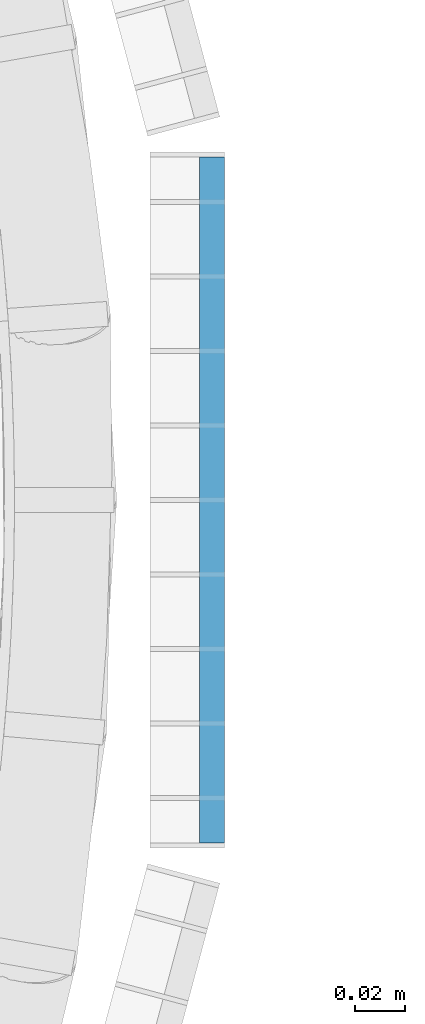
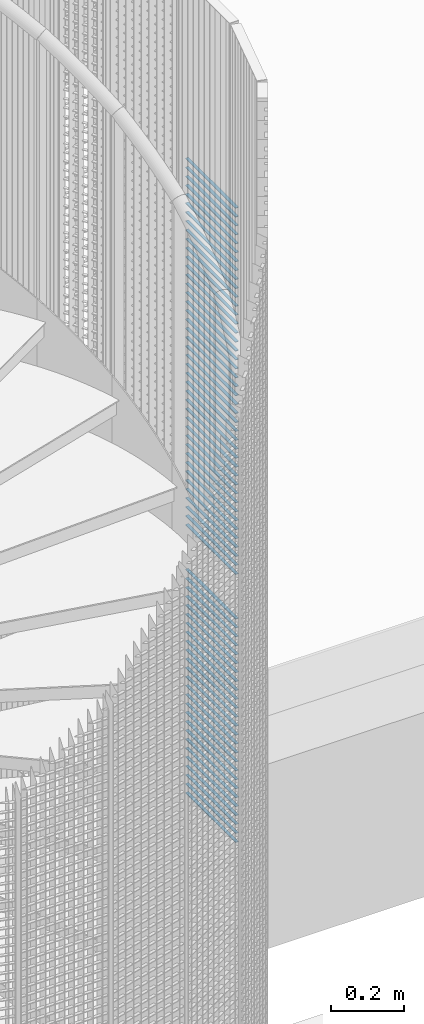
# One storey, part 266 of 1148: 68 beams, 1 element without a shape of its own.
"""IFC2X3 building model written with IfcOpenShell, lengths in millimetres."""

from ifc_helpers import new_model, si_unit, frame, origin_with_axes, origin_2d_with_axis, place, context, subcontext, project, spatial, rectangle, extrude, material, type_object, element, aggregate, save


model = new_model("IFC2X3")

# Units and contexts
model_context = context("Model", 3, precision=1e-05, world=origin_with_axes())
body_context = subcontext(model_context, "Body", "Model", "MODEL_VIEW")
ifc_project = project(units=[si_unit("LENGTHUNIT", "METRE", prefix="MILLI"), si_unit("AREAUNIT", "SQUARE_METRE"), si_unit("VOLUMEUNIT", "CUBIC_METRE"), si_unit("MASSUNIT", "GRAM", prefix="KILO"), si_unit("TIMEUNIT", "SECOND"), si_unit("PLANEANGLEUNIT", "RADIAN"), si_unit("SOLIDANGLEUNIT", "STERADIAN"), si_unit("THERMODYNAMICTEMPERATUREUNIT", "DEGREE_CELSIUS"), si_unit("LUMINOUSINTENSITYUNIT", "LUMEN")], contexts=[model_context])

# Site, building, storey
site_placement = place(None, origin_with_axes())
site = spatial("IfcSite", under=ifc_project, at=site_placement, Name="Undefined", CompositionType="ELEMENT")
building_placement = place(site_placement, origin_with_axes())
building = spatial("IfcBuilding", under=site, at=building_placement, Name="Undefined", CompositionType="ELEMENT")
storey_placement = place(building_placement, origin_with_axes())
storey = spatial("IfcBuildingStorey", under=building, at=storey_placement, Name="Undefined", CompositionType="ELEMENT", Elevation=0.0)

# Assembly, beams
assembly_placement = place(storey_placement, origin_with_axes())
assembly = element("IfcElementAssembly", 1, at=assembly_placement, inside=storey, Name="BORDURE", AssemblyPlace="NOTDEFINED", PredefinedType="NOTDEFINED")
ifc_material = material(Name="STEEL/S235JR")
beam_type = type_object("IfcBeamType", Name="PL2*10", PredefinedType="NOTDEFINED")
beam_1_placement = place(assembly_placement, frame((1113.47999999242, -137.996003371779, 17370.0), z_axis=(1.0, 0.0, 0.0), x_axis=(0.0, 1.0, 0.0)))
beam_1 = element("IfcBeam", 2, at=beam_1_placement, type_object=beam_type, material=ifc_material, Name="ENTRETOISE", context=body_context, shape_type="SweptSolid", body=[
    extrude(rectangle(XDim=2.0, YDim=10.0, at=origin_2d_with_axis()), frame((275.999999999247, 9.09494701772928e-13, 1.53210777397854e-14), z_axis=(-1.0, 0.0, 0.0), x_axis=(0.0, -1.0, 0.0)), (0.0, 0.0, 1.0), 276.0),
])
beam_2_placement = place(assembly_placement, frame((1113.47999999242, -137.996003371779, 17340.0), z_axis=(1.0, 0.0, 0.0), x_axis=(0.0, 1.0, 0.0)))
beam_2 = element("IfcBeam", 3, at=beam_2_placement, type_object=beam_type, material=ifc_material, Name="ENTRETOISE", context=body_context, shape_type="SweptSolid", body=[
    extrude(rectangle(XDim=2.0, YDim=10.0, at=origin_2d_with_axis()), frame((275.999999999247, 9.09494701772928e-13, 1.53210777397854e-14), z_axis=(-1.0, 0.0, 0.0), x_axis=(0.0, -1.0, 0.0)), (0.0, 0.0, 1.0), 276.0),
])
beam_3_placement = place(assembly_placement, frame((1113.47999999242, -137.996003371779, 17310.0), z_axis=(1.0, 0.0, 0.0), x_axis=(0.0, 1.0, 0.0)))
beam_3 = element("IfcBeam", 4, at=beam_3_placement, type_object=beam_type, material=ifc_material, Name="ENTRETOISE", context=body_context, shape_type="SweptSolid", body=[
    extrude(rectangle(XDim=2.0, YDim=10.0, at=origin_2d_with_axis()), frame((275.999999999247, 9.09494701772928e-13, 1.53210777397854e-14), z_axis=(-1.0, 0.0, 0.0), x_axis=(0.0, -1.0, 0.0)), (0.0, 0.0, 1.0), 276.0),
])
beam_4_placement = place(assembly_placement, frame((1113.47999999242, -137.996003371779, 17280.0), z_axis=(1.0, 0.0, 0.0), x_axis=(0.0, 1.0, 0.0)))
beam_4 = element("IfcBeam", 5, at=beam_4_placement, type_object=beam_type, material=ifc_material, Name="ENTRETOISE", context=body_context, shape_type="SweptSolid", body=[
    extrude(rectangle(XDim=2.0, YDim=10.0, at=origin_2d_with_axis()), frame((275.999999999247, 9.09494701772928e-13, 1.53210777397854e-14), z_axis=(-1.0, 0.0, 0.0), x_axis=(0.0, -1.0, 0.0)), (0.0, 0.0, 1.0), 276.0),
])
beam_5_placement = place(assembly_placement, frame((1113.47999999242, -137.996003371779, 17250.0), z_axis=(1.0, 0.0, 0.0), x_axis=(0.0, 1.0, 0.0)))
beam_5 = element("IfcBeam", 6, at=beam_5_placement, type_object=beam_type, material=ifc_material, Name="ENTRETOISE", context=body_context, shape_type="SweptSolid", body=[
    extrude(rectangle(XDim=2.0, YDim=10.0, at=origin_2d_with_axis()), frame((275.999999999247, 9.09494701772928e-13, 1.53210777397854e-14), z_axis=(-1.0, 0.0, 0.0), x_axis=(0.0, -1.0, 0.0)), (0.0, 0.0, 1.0), 276.0),
])
beam_6_placement = place(assembly_placement, frame((1113.47999999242, -137.996003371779, 17220.0), z_axis=(1.0, 0.0, 0.0), x_axis=(0.0, 1.0, 0.0)))
beam_6 = element("IfcBeam", 7, at=beam_6_placement, type_object=beam_type, material=ifc_material, Name="ENTRETOISE", context=body_context, shape_type="SweptSolid", body=[
    extrude(rectangle(XDim=2.0, YDim=10.0, at=origin_2d_with_axis()), frame((275.999999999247, 9.09494701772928e-13, 1.53210777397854e-14), z_axis=(-1.0, 0.0, 0.0), x_axis=(0.0, -1.0, 0.0)), (0.0, 0.0, 1.0), 276.0),
])
beam_7_placement = place(assembly_placement, frame((1113.47999999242, -137.996003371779, 17190.0), z_axis=(1.0, 0.0, 0.0), x_axis=(0.0, 1.0, 0.0)))
beam_7 = element("IfcBeam", 8, at=beam_7_placement, type_object=beam_type, material=ifc_material, Name="ENTRETOISE", context=body_context, shape_type="SweptSolid", body=[
    extrude(rectangle(XDim=2.0, YDim=10.0, at=origin_2d_with_axis()), frame((275.999999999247, 9.09494701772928e-13, 1.53210777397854e-14), z_axis=(-1.0, 0.0, 0.0), x_axis=(0.0, -1.0, 0.0)), (0.0, 0.0, 1.0), 276.0),
])
beam_8_placement = place(assembly_placement, frame((1113.47999999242, -137.996003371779, 17160.0), z_axis=(1.0, 0.0, 0.0), x_axis=(0.0, 1.0, 0.0)))
beam_8 = element("IfcBeam", 9, at=beam_8_placement, type_object=beam_type, material=ifc_material, Name="ENTRETOISE", context=body_context, shape_type="SweptSolid", body=[
    extrude(rectangle(XDim=2.0, YDim=10.0, at=origin_2d_with_axis()), frame((275.999999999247, 9.09494701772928e-13, 1.53210777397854e-14), z_axis=(-1.0, 0.0, 0.0), x_axis=(0.0, -1.0, 0.0)), (0.0, 0.0, 1.0), 276.0),
])
beam_9_placement = place(assembly_placement, frame((1113.47999999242, -137.996003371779, 17130.0), z_axis=(1.0, 0.0, 0.0), x_axis=(0.0, 1.0, 0.0)))
beam_9 = element("IfcBeam", 10, at=beam_9_placement, type_object=beam_type, material=ifc_material, Name="ENTRETOISE", context=body_context, shape_type="SweptSolid", body=[
    extrude(rectangle(XDim=2.0, YDim=10.0, at=origin_2d_with_axis()), frame((275.999999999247, 9.09494701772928e-13, 1.53210777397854e-14), z_axis=(-1.0, 0.0, 0.0), x_axis=(0.0, -1.0, 0.0)), (0.0, 0.0, 1.0), 276.0),
])
beam_10_placement = place(assembly_placement, frame((1113.47999999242, -137.996003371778, 17100.0), z_axis=(1.0, 0.0, 0.0), x_axis=(0.0, 1.0, 0.0)))
beam_10 = element("IfcBeam", 11, at=beam_10_placement, type_object=beam_type, material=ifc_material, Name="ENTRETOISE", context=body_context, shape_type="SweptSolid", body=[
    extrude(rectangle(XDim=2.0, YDim=10.0, at=origin_2d_with_axis()), frame((275.999999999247, 9.09494701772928e-13, 1.53210777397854e-14), z_axis=(-1.0, 0.0, 0.0), x_axis=(0.0, -1.0, 0.0)), (0.0, 0.0, 1.0), 276.0),
])
beam_11_placement = place(assembly_placement, frame((1113.47999999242, -137.996003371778, 17070.0), z_axis=(1.0, 0.0, 0.0), x_axis=(0.0, 1.0, 0.0)))
beam_11 = element("IfcBeam", 12, at=beam_11_placement, type_object=beam_type, material=ifc_material, Name="ENTRETOISE", context=body_context, shape_type="SweptSolid", body=[
    extrude(rectangle(XDim=2.0, YDim=10.0, at=origin_2d_with_axis()), frame((275.999999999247, 9.09494701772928e-13, 1.53210777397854e-14), z_axis=(-1.0, 0.0, 0.0), x_axis=(0.0, -1.0, 0.0)), (0.0, 0.0, 1.0), 276.0),
])
beam_12_placement = place(assembly_placement, frame((1113.47999999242, -137.996003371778, 17040.0), z_axis=(1.0, 0.0, 0.0), x_axis=(0.0, 1.0, 0.0)))
beam_12 = element("IfcBeam", 13, at=beam_12_placement, type_object=beam_type, material=ifc_material, Name="ENTRETOISE", context=body_context, shape_type="SweptSolid", body=[
    extrude(rectangle(XDim=2.0, YDim=10.0, at=origin_2d_with_axis()), frame((275.999999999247, 9.09494701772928e-13, 1.53210777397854e-14), z_axis=(-1.0, 0.0, 0.0), x_axis=(0.0, -1.0, 0.0)), (0.0, 0.0, 1.0), 276.0),
])
beam_13_placement = place(assembly_placement, frame((1113.47999999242, -137.996003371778, 17010.0), z_axis=(1.0, 0.0, 0.0), x_axis=(0.0, 1.0, 0.0)))
beam_13 = element("IfcBeam", 14, at=beam_13_placement, type_object=beam_type, material=ifc_material, Name="ENTRETOISE", context=body_context, shape_type="SweptSolid", body=[
    extrude(rectangle(XDim=2.0, YDim=10.0, at=origin_2d_with_axis()), frame((275.999999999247, 9.09494701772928e-13, 1.53210777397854e-14), z_axis=(-1.0, 0.0, 0.0), x_axis=(0.0, -1.0, 0.0)), (0.0, 0.0, 1.0), 276.0),
])
beam_14_placement = place(assembly_placement, frame((1113.47999999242, -137.996003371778, 16980.0), z_axis=(1.0, 0.0, 0.0), x_axis=(0.0, 1.0, 0.0)))
beam_14 = element("IfcBeam", 15, at=beam_14_placement, type_object=beam_type, material=ifc_material, Name="ENTRETOISE", context=body_context, shape_type="SweptSolid", body=[
    extrude(rectangle(XDim=2.0, YDim=10.0, at=origin_2d_with_axis()), frame((275.999999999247, 9.09494701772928e-13, 1.53210777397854e-14), z_axis=(-1.0, 0.0, 0.0), x_axis=(0.0, -1.0, 0.0)), (0.0, 0.0, 1.0), 276.0),
])
beam_15_placement = place(assembly_placement, frame((1113.47999999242, -137.996003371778, 16950.0), z_axis=(1.0, 0.0, 0.0), x_axis=(0.0, 1.0, 0.0)))
beam_15 = element("IfcBeam", 16, at=beam_15_placement, type_object=beam_type, material=ifc_material, Name="ENTRETOISE", context=body_context, shape_type="SweptSolid", body=[
    extrude(rectangle(XDim=2.0, YDim=10.0, at=origin_2d_with_axis()), frame((275.999999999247, 9.09494701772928e-13, 1.53210777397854e-14), z_axis=(-1.0, 0.0, 0.0), x_axis=(0.0, -1.0, 0.0)), (0.0, 0.0, 1.0), 276.0),
])
beam_16_placement = place(assembly_placement, frame((1113.47999999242, -137.996003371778, 16920.0), z_axis=(1.0, 0.0, 0.0), x_axis=(0.0, 1.0, 0.0)))
beam_16 = element("IfcBeam", 17, at=beam_16_placement, type_object=beam_type, material=ifc_material, Name="ENTRETOISE", context=body_context, shape_type="SweptSolid", body=[
    extrude(rectangle(XDim=2.0, YDim=10.0, at=origin_2d_with_axis()), frame((275.999999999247, 9.09494701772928e-13, 1.53210777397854e-14), z_axis=(-1.0, 0.0, 0.0), x_axis=(0.0, -1.0, 0.0)), (0.0, 0.0, 1.0), 276.0),
])
beam_17_placement = place(assembly_placement, frame((1113.47999999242, -137.996003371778, 16890.0), z_axis=(1.0, 0.0, 0.0), x_axis=(0.0, 1.0, 0.0)))
beam_17 = element("IfcBeam", 18, at=beam_17_placement, type_object=beam_type, material=ifc_material, Name="ENTRETOISE", context=body_context, shape_type="SweptSolid", body=[
    extrude(rectangle(XDim=2.0, YDim=10.0, at=origin_2d_with_axis()), frame((275.999999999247, 9.09494701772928e-13, 1.53210777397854e-14), z_axis=(-1.0, 0.0, 0.0), x_axis=(0.0, -1.0, 0.0)), (0.0, 0.0, 1.0), 276.0),
])
beam_18_placement = place(assembly_placement, frame((1113.47999999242, -137.996003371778, 16860.0), z_axis=(1.0, 0.0, 0.0), x_axis=(0.0, 1.0, 0.0)))
beam_18 = element("IfcBeam", 19, at=beam_18_placement, type_object=beam_type, material=ifc_material, Name="ENTRETOISE", context=body_context, shape_type="SweptSolid", body=[
    extrude(rectangle(XDim=2.0, YDim=10.0, at=origin_2d_with_axis()), frame((275.999999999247, 9.09494701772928e-13, 1.53210777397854e-14), z_axis=(-1.0, 0.0, 0.0), x_axis=(0.0, -1.0, 0.0)), (0.0, 0.0, 1.0), 276.0),
])
beam_19_placement = place(assembly_placement, frame((1113.47999999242, -137.996003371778, 16830.0), z_axis=(1.0, 0.0, 0.0), x_axis=(0.0, 1.0, 0.0)))
beam_19 = element("IfcBeam", 20, at=beam_19_placement, type_object=beam_type, material=ifc_material, Name="ENTRETOISE", context=body_context, shape_type="SweptSolid", body=[
    extrude(rectangle(XDim=2.0, YDim=10.0, at=origin_2d_with_axis()), frame((275.999999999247, 9.09494701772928e-13, 1.53210777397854e-14), z_axis=(-1.0, 0.0, 0.0), x_axis=(0.0, -1.0, 0.0)), (0.0, 0.0, 1.0), 276.0),
])
beam_20_placement = place(assembly_placement, frame((1113.47999999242, -137.996003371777, 16800.0), z_axis=(1.0, 0.0, 0.0), x_axis=(0.0, 1.0, 0.0)))
beam_20 = element("IfcBeam", 21, at=beam_20_placement, type_object=beam_type, material=ifc_material, Name="ENTRETOISE", context=body_context, shape_type="SweptSolid", body=[
    extrude(rectangle(XDim=2.0, YDim=10.0, at=origin_2d_with_axis()), frame((275.999999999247, 9.09494701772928e-13, 1.53210777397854e-14), z_axis=(-1.0, 0.0, 0.0), x_axis=(0.0, -1.0, 0.0)), (0.0, 0.0, 1.0), 276.0),
])
beam_21_placement = place(assembly_placement, frame((1113.47999999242, -137.996003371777, 16770.0), z_axis=(1.0, 0.0, 0.0), x_axis=(0.0, 1.0, 0.0)))
beam_21 = element("IfcBeam", 22, at=beam_21_placement, type_object=beam_type, material=ifc_material, Name="ENTRETOISE", context=body_context, shape_type="SweptSolid", body=[
    extrude(rectangle(XDim=2.0, YDim=10.0, at=origin_2d_with_axis()), frame((275.999999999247, 9.09494701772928e-13, 1.53210777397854e-14), z_axis=(-1.0, 0.0, 0.0), x_axis=(0.0, -1.0, 0.0)), (0.0, 0.0, 1.0), 276.0),
])
beam_22_placement = place(assembly_placement, frame((1113.47999999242, -137.996003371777, 16740.0), z_axis=(1.0, 0.0, 0.0), x_axis=(0.0, 1.0, 0.0)))
beam_22 = element("IfcBeam", 23, at=beam_22_placement, type_object=beam_type, material=ifc_material, Name="ENTRETOISE", context=body_context, shape_type="SweptSolid", body=[
    extrude(rectangle(XDim=2.0, YDim=10.0, at=origin_2d_with_axis()), frame((275.999999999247, 9.09494701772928e-13, 1.53210777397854e-14), z_axis=(-1.0, 0.0, 0.0), x_axis=(0.0, -1.0, 0.0)), (0.0, 0.0, 1.0), 276.0),
])
beam_23_placement = place(assembly_placement, frame((1113.47999999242, -137.996003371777, 16710.0), z_axis=(1.0, 0.0, 0.0), x_axis=(0.0, 1.0, 0.0)))
beam_23 = element("IfcBeam", 24, at=beam_23_placement, type_object=beam_type, material=ifc_material, Name="ENTRETOISE", context=body_context, shape_type="SweptSolid", body=[
    extrude(rectangle(XDim=2.0, YDim=10.0, at=origin_2d_with_axis()), frame((275.999999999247, 9.09494701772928e-13, 1.53210777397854e-14), z_axis=(-1.0, 0.0, 0.0), x_axis=(0.0, -1.0, 0.0)), (0.0, 0.0, 1.0), 276.0),
])
beam_24_placement = place(assembly_placement, frame((1113.47999999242, -137.996003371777, 16680.0), z_axis=(1.0, 0.0, 0.0), x_axis=(0.0, 1.0, 0.0)))
beam_24 = element("IfcBeam", 25, at=beam_24_placement, type_object=beam_type, material=ifc_material, Name="ENTRETOISE", context=body_context, shape_type="SweptSolid", body=[
    extrude(rectangle(XDim=2.0, YDim=10.0, at=origin_2d_with_axis()), frame((275.999999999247, 9.09494701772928e-13, 1.53210777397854e-14), z_axis=(-1.0, 0.0, 0.0), x_axis=(0.0, -1.0, 0.0)), (0.0, 0.0, 1.0), 276.0),
])
beam_25_placement = place(assembly_placement, frame((1113.47999999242, -137.996003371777, 16650.0), z_axis=(1.0, 0.0, 0.0), x_axis=(0.0, 1.0, 0.0)))
beam_25 = element("IfcBeam", 26, at=beam_25_placement, type_object=beam_type, material=ifc_material, Name="ENTRETOISE", context=body_context, shape_type="SweptSolid", body=[
    extrude(rectangle(XDim=2.0, YDim=10.0, at=origin_2d_with_axis()), frame((275.999999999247, 9.09494701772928e-13, 1.53210777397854e-14), z_axis=(-1.0, 0.0, 0.0), x_axis=(0.0, -1.0, 0.0)), (0.0, 0.0, 1.0), 276.0),
])
beam_26_placement = place(assembly_placement, frame((1113.47999999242, -137.996003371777, 16620.0), z_axis=(1.0, 0.0, 0.0), x_axis=(0.0, 1.0, 0.0)))
beam_26 = element("IfcBeam", 27, at=beam_26_placement, type_object=beam_type, material=ifc_material, Name="ENTRETOISE", context=body_context, shape_type="SweptSolid", body=[
    extrude(rectangle(XDim=2.0, YDim=10.0, at=origin_2d_with_axis()), frame((275.999999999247, 9.09494701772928e-13, 1.53210777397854e-14), z_axis=(-1.0, 0.0, 0.0), x_axis=(0.0, -1.0, 0.0)), (0.0, 0.0, 1.0), 276.0),
])
beam_27_placement = place(assembly_placement, frame((1113.47999999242, -137.996003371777, 16590.0), z_axis=(1.0, 0.0, 0.0), x_axis=(0.0, 1.0, 0.0)))
beam_27 = element("IfcBeam", 28, at=beam_27_placement, type_object=beam_type, material=ifc_material, Name="ENTRETOISE", context=body_context, shape_type="SweptSolid", body=[
    extrude(rectangle(XDim=2.0, YDim=10.0, at=origin_2d_with_axis()), frame((275.999999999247, 9.09494701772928e-13, 1.53210777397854e-14), z_axis=(-1.0, 0.0, 0.0), x_axis=(0.0, -1.0, 0.0)), (0.0, 0.0, 1.0), 276.0),
])
beam_28_placement = place(assembly_placement, frame((1113.47999999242, -137.996003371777, 16560.0), z_axis=(1.0, 0.0, 0.0), x_axis=(0.0, 1.0, 0.0)))
beam_28 = element("IfcBeam", 29, at=beam_28_placement, type_object=beam_type, material=ifc_material, Name="ENTRETOISE", context=body_context, shape_type="SweptSolid", body=[
    extrude(rectangle(XDim=2.0, YDim=10.0, at=origin_2d_with_axis()), frame((275.999999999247, 9.09494701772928e-13, 1.53210777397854e-14), z_axis=(-1.0, 0.0, 0.0), x_axis=(0.0, -1.0, 0.0)), (0.0, 0.0, 1.0), 276.0),
])
beam_29_placement = place(assembly_placement, frame((1113.47999999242, -137.996003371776, 16530.0), z_axis=(1.0, 0.0, 0.0), x_axis=(0.0, 1.0, 0.0)))
beam_29 = element("IfcBeam", 30, at=beam_29_placement, type_object=beam_type, material=ifc_material, Name="ENTRETOISE", context=body_context, shape_type="SweptSolid", body=[
    extrude(rectangle(XDim=2.0, YDim=10.0, at=origin_2d_with_axis()), frame((275.999999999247, 9.09494701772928e-13, 1.53210777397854e-14), z_axis=(-1.0, 0.0, 0.0), x_axis=(0.0, -1.0, 0.0)), (0.0, 0.0, 1.0), 276.0),
])
beam_30_placement = place(assembly_placement, frame((1113.47999999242, -137.996003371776, 16500.0), z_axis=(1.0, 0.0, 0.0), x_axis=(0.0, 1.0, 0.0)))
beam_30 = element("IfcBeam", 31, at=beam_30_placement, type_object=beam_type, material=ifc_material, Name="ENTRETOISE", context=body_context, shape_type="SweptSolid", body=[
    extrude(rectangle(XDim=2.0, YDim=10.0, at=origin_2d_with_axis()), frame((275.999999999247, 9.09494701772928e-13, 1.53210777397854e-14), z_axis=(-1.0, 0.0, 0.0), x_axis=(0.0, -1.0, 0.0)), (0.0, 0.0, 1.0), 276.0),
])
beam_31_placement = place(assembly_placement, frame((1113.47999999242, -137.996003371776, 16470.0), z_axis=(1.0, 0.0, 0.0), x_axis=(0.0, 1.0, 0.0)))
beam_31 = element("IfcBeam", 32, at=beam_31_placement, type_object=beam_type, material=ifc_material, Name="ENTRETOISE", context=body_context, shape_type="SweptSolid", body=[
    extrude(rectangle(XDim=2.0, YDim=10.0, at=origin_2d_with_axis()), frame((275.999999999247, 9.09494701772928e-13, 1.53210777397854e-14), z_axis=(-1.0, 0.0, 0.0), x_axis=(0.0, -1.0, 0.0)), (0.0, 0.0, 1.0), 276.0),
])
beam_32_placement = place(assembly_placement, frame((1113.47999999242, -137.996003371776, 16440.0), z_axis=(1.0, 0.0, 0.0), x_axis=(0.0, 1.0, 0.0)))
beam_32 = element("IfcBeam", 33, at=beam_32_placement, type_object=beam_type, material=ifc_material, Name="ENTRETOISE", context=body_context, shape_type="SweptSolid", body=[
    extrude(rectangle(XDim=2.0, YDim=10.0, at=origin_2d_with_axis()), frame((275.999999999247, 9.09494701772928e-13, 1.53210777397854e-14), z_axis=(-1.0, 0.0, 0.0), x_axis=(0.0, -1.0, 0.0)), (0.0, 0.0, 1.0), 276.0),
])
beam_33_placement = place(assembly_placement, frame((1113.47999999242, -137.996003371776, 16410.0), z_axis=(1.0, 0.0, 0.0), x_axis=(0.0, 1.0, 0.0)))
beam_33 = element("IfcBeam", 34, at=beam_33_placement, type_object=beam_type, material=ifc_material, Name="ENTRETOISE", context=body_context, shape_type="SweptSolid", body=[
    extrude(rectangle(XDim=2.0, YDim=10.0, at=origin_2d_with_axis()), frame((275.999999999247, 9.09494701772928e-13, 1.53210777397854e-14), z_axis=(-1.0, 0.0, 0.0), x_axis=(0.0, -1.0, 0.0)), (0.0, 0.0, 1.0), 276.0),
])
beam_34_placement = place(assembly_placement, frame((1113.47999999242, -137.996003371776, 16380.0), z_axis=(1.0, 0.0, 0.0), x_axis=(0.0, 1.0, 0.0)))
beam_34 = element("IfcBeam", 35, at=beam_34_placement, type_object=beam_type, material=ifc_material, Name="ENTRETOISE", context=body_context, shape_type="SweptSolid", body=[
    extrude(rectangle(XDim=2.0, YDim=10.0, at=origin_2d_with_axis()), frame((275.999999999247, 9.09494701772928e-13, 1.53210777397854e-14), z_axis=(-1.0, 0.0, 0.0), x_axis=(0.0, -1.0, 0.0)), (0.0, 0.0, 1.0), 276.0),
])
beam_35_placement = place(assembly_placement, frame((1113.47999999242, -137.996003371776, 16350.0), z_axis=(1.0, 0.0, 0.0), x_axis=(0.0, 1.0, 0.0)))
beam_35 = element("IfcBeam", 36, at=beam_35_placement, type_object=beam_type, material=ifc_material, Name="ENTRETOISE", context=body_context, shape_type="SweptSolid", body=[
    extrude(rectangle(XDim=2.0, YDim=10.0, at=origin_2d_with_axis()), frame((275.999999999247, 9.09494701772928e-13, 1.53210777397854e-14), z_axis=(-1.0, 0.0, 0.0), x_axis=(0.0, -1.0, 0.0)), (0.0, 0.0, 1.0), 276.0),
])
beam_36_placement = place(assembly_placement, frame((1113.47999999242, -137.996003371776, 16320.0), z_axis=(1.0, 0.0, 0.0), x_axis=(0.0, 1.0, 0.0)))
beam_36 = element("IfcBeam", 37, at=beam_36_placement, type_object=beam_type, material=ifc_material, Name="ENTRETOISE", context=body_context, shape_type="SweptSolid", body=[
    extrude(rectangle(XDim=2.0, YDim=10.0, at=origin_2d_with_axis()), frame((275.999999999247, 9.09494701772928e-13, 1.53210777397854e-14), z_axis=(-1.0, 0.0, 0.0), x_axis=(0.0, -1.0, 0.0)), (0.0, 0.0, 1.0), 276.0),
])
beam_37_placement = place(assembly_placement, frame((1113.47999999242, -137.996003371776, 16290.0), z_axis=(1.0, 0.0, 0.0), x_axis=(0.0, 1.0, 0.0)))
beam_37 = element("IfcBeam", 38, at=beam_37_placement, type_object=beam_type, material=ifc_material, Name="ENTRETOISE", context=body_context, shape_type="SweptSolid", body=[
    extrude(rectangle(XDim=2.0, YDim=10.0, at=origin_2d_with_axis()), frame((275.999999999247, 9.09494701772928e-13, 1.53210777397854e-14), z_axis=(-1.0, 0.0, 0.0), x_axis=(0.0, -1.0, 0.0)), (0.0, 0.0, 1.0), 276.0),
])
beam_38_placement = place(assembly_placement, frame((1113.47999999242, -137.996003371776, 16260.0), z_axis=(1.0, 0.0, 0.0), x_axis=(0.0, 1.0, 0.0)))
beam_38 = element("IfcBeam", 39, at=beam_38_placement, type_object=beam_type, material=ifc_material, Name="ENTRETOISE", context=body_context, shape_type="SweptSolid", body=[
    extrude(rectangle(XDim=2.0, YDim=10.0, at=origin_2d_with_axis()), frame((275.999999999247, 9.09494701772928e-13, 1.53210777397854e-14), z_axis=(-1.0, 0.0, 0.0), x_axis=(0.0, -1.0, 0.0)), (0.0, 0.0, 1.0), 276.0),
])
beam_39_placement = place(assembly_placement, frame((1113.47999999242, -137.996003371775, 16230.0), z_axis=(1.0, 0.0, 0.0), x_axis=(0.0, 1.0, 0.0)))
beam_39 = element("IfcBeam", 40, at=beam_39_placement, type_object=beam_type, material=ifc_material, Name="ENTRETOISE", context=body_context, shape_type="SweptSolid", body=[
    extrude(rectangle(XDim=2.0, YDim=10.0, at=origin_2d_with_axis()), frame((275.999999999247, 9.09494701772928e-13, 1.53210777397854e-14), z_axis=(-1.0, 0.0, 0.0), x_axis=(0.0, -1.0, 0.0)), (0.0, 0.0, 1.0), 276.0),
])
beam_40_placement = place(assembly_placement, frame((1113.47999999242, -137.996003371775, 16200.0), z_axis=(1.0, 0.0, 0.0), x_axis=(0.0, 1.0, 0.0)))
beam_40 = element("IfcBeam", 41, at=beam_40_placement, type_object=beam_type, material=ifc_material, Name="ENTRETOISE", context=body_context, shape_type="SweptSolid", body=[
    extrude(rectangle(XDim=2.0, YDim=10.0, at=origin_2d_with_axis()), frame((275.999999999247, 9.09494701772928e-13, 1.53210777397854e-14), z_axis=(-1.0, 0.0, 0.0), x_axis=(0.0, -1.0, 0.0)), (0.0, 0.0, 1.0), 276.0),
])
beam_41_placement = place(assembly_placement, frame((1113.47999999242, -137.996003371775, 16170.0), z_axis=(1.0, 0.0, 0.0), x_axis=(0.0, 1.0, 0.0)))
beam_41 = element("IfcBeam", 42, at=beam_41_placement, type_object=beam_type, material=ifc_material, Name="ENTRETOISE", context=body_context, shape_type="SweptSolid", body=[
    extrude(rectangle(XDim=2.0, YDim=10.0, at=origin_2d_with_axis()), frame((275.999999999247, 9.09494701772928e-13, 1.53210777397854e-14), z_axis=(-1.0, 0.0, 0.0), x_axis=(0.0, -1.0, 0.0)), (0.0, 0.0, 1.0), 276.0),
])
beam_42_placement = place(assembly_placement, frame((1113.47999999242, -137.996003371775, 16140.0), z_axis=(1.0, 0.0, 0.0), x_axis=(0.0, 1.0, 0.0)))
beam_42 = element("IfcBeam", 43, at=beam_42_placement, type_object=beam_type, material=ifc_material, Name="ENTRETOISE", context=body_context, shape_type="SweptSolid", body=[
    extrude(rectangle(XDim=2.0, YDim=10.0, at=origin_2d_with_axis()), frame((275.999999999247, 9.09494701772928e-13, 1.53210777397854e-14), z_axis=(-1.0, 0.0, 0.0), x_axis=(0.0, -1.0, 0.0)), (0.0, 0.0, 1.0), 276.0),
])
beam_43_placement = place(assembly_placement, frame((1113.47999999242, -137.996003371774, 15720.0), z_axis=(1.0, 0.0, 0.0), x_axis=(0.0, 1.0, 0.0)))
beam_43 = element("IfcBeam", 44, at=beam_43_placement, type_object=beam_type, material=ifc_material, Name="ENTRETOISE", context=body_context, shape_type="SweptSolid", body=[
    extrude(rectangle(XDim=2.0, YDim=10.0, at=origin_2d_with_axis()), frame((275.999999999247, 9.09494701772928e-13, 1.53210777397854e-14), z_axis=(-1.0, 0.0, 0.0), x_axis=(0.0, -1.0, 0.0)), (0.0, 0.0, 1.0), 276.0),
])
beam_44_placement = place(assembly_placement, frame((1113.47999999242, -137.996003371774, 15690.0), z_axis=(1.0, 0.0, 0.0), x_axis=(0.0, 1.0, 0.0)))
beam_44 = element("IfcBeam", 45, at=beam_44_placement, type_object=beam_type, material=ifc_material, Name="ENTRETOISE", context=body_context, shape_type="SweptSolid", body=[
    extrude(rectangle(XDim=2.0, YDim=10.0, at=origin_2d_with_axis()), frame((275.999999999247, 9.09494701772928e-13, 1.53210777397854e-14), z_axis=(-1.0, 0.0, 0.0), x_axis=(0.0, -1.0, 0.0)), (0.0, 0.0, 1.0), 276.0),
])
beam_45_placement = place(assembly_placement, frame((1113.47999999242, -137.996003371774, 15750.0), z_axis=(1.0, 0.0, 0.0), x_axis=(0.0, 1.0, 0.0)))
beam_45 = element("IfcBeam", 46, at=beam_45_placement, type_object=beam_type, material=ifc_material, Name="ENTRETOISE", context=body_context, shape_type="SweptSolid", body=[
    extrude(rectangle(XDim=2.0, YDim=10.0, at=origin_2d_with_axis()), frame((275.999999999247, 9.09494701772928e-13, 1.53210777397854e-14), z_axis=(-1.0, 0.0, 0.0), x_axis=(0.0, -1.0, 0.0)), (0.0, 0.0, 1.0), 276.0),
])
beam_46_placement = place(assembly_placement, frame((1113.47999999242, -137.996003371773, 15660.0), z_axis=(1.0, 0.0, 0.0), x_axis=(0.0, 1.0, 0.0)))
beam_46 = element("IfcBeam", 47, at=beam_46_placement, type_object=beam_type, material=ifc_material, Name="ENTRETOISE", context=body_context, shape_type="SweptSolid", body=[
    extrude(rectangle(XDim=2.0, YDim=10.0, at=origin_2d_with_axis()), frame((275.999999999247, 9.09494701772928e-13, 1.53210777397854e-14), z_axis=(-1.0, 0.0, 0.0), x_axis=(0.0, -1.0, 0.0)), (0.0, 0.0, 1.0), 276.0),
])
beam_47_placement = place(assembly_placement, frame((1113.47999999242, -137.996003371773, 15630.0), z_axis=(1.0, 0.0, 0.0), x_axis=(0.0, 1.0, 0.0)))
beam_47 = element("IfcBeam", 48, at=beam_47_placement, type_object=beam_type, material=ifc_material, Name="ENTRETOISE", context=body_context, shape_type="SweptSolid", body=[
    extrude(rectangle(XDim=2.0, YDim=10.0, at=origin_2d_with_axis()), frame((275.999999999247, 9.09494701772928e-13, 1.53210777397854e-14), z_axis=(-1.0, 0.0, 0.0), x_axis=(0.0, -1.0, 0.0)), (0.0, 0.0, 1.0), 276.0),
])
beam_48_placement = place(assembly_placement, frame((1113.47999999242, -137.996003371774, 15780.0), z_axis=(1.0, 0.0, 0.0), x_axis=(0.0, 1.0, 0.0)))
beam_48 = element("IfcBeam", 49, at=beam_48_placement, type_object=beam_type, material=ifc_material, Name="ENTRETOISE", context=body_context, shape_type="SweptSolid", body=[
    extrude(rectangle(XDim=2.0, YDim=10.0, at=origin_2d_with_axis()), frame((275.999999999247, 9.09494701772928e-13, 1.53210777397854e-14), z_axis=(-1.0, 0.0, 0.0), x_axis=(0.0, -1.0, 0.0)), (0.0, 0.0, 1.0), 276.0),
])
beam_49_placement = place(assembly_placement, frame((1113.47999999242, -137.996003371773, 15600.0), z_axis=(1.0, 0.0, 0.0), x_axis=(0.0, 1.0, 0.0)))
beam_49 = element("IfcBeam", 50, at=beam_49_placement, type_object=beam_type, material=ifc_material, Name="ENTRETOISE", context=body_context, shape_type="SweptSolid", body=[
    extrude(rectangle(XDim=2.0, YDim=10.0, at=origin_2d_with_axis()), frame((275.999999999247, 9.09494701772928e-13, 1.53210777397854e-14), z_axis=(-1.0, 0.0, 0.0), x_axis=(0.0, -1.0, 0.0)), (0.0, 0.0, 1.0), 276.0),
])
beam_50_placement = place(assembly_placement, frame((1113.47999999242, -137.996003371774, 15810.0), z_axis=(1.0, 0.0, 0.0), x_axis=(0.0, 1.0, 0.0)))
beam_50 = element("IfcBeam", 51, at=beam_50_placement, type_object=beam_type, material=ifc_material, Name="ENTRETOISE", context=body_context, shape_type="SweptSolid", body=[
    extrude(rectangle(XDim=2.0, YDim=10.0, at=origin_2d_with_axis()), frame((275.999999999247, 9.09494701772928e-13, 1.53210777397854e-14), z_axis=(-1.0, 0.0, 0.0), x_axis=(0.0, -1.0, 0.0)), (0.0, 0.0, 1.0), 276.0),
])
beam_51_placement = place(assembly_placement, frame((1113.47999999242, -137.996003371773, 15570.0), z_axis=(1.0, 0.0, 0.0), x_axis=(0.0, 1.0, 0.0)))
beam_51 = element("IfcBeam", 52, at=beam_51_placement, type_object=beam_type, material=ifc_material, Name="ENTRETOISE", context=body_context, shape_type="SweptSolid", body=[
    extrude(rectangle(XDim=2.0, YDim=10.0, at=origin_2d_with_axis()), frame((275.999999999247, 9.09494701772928e-13, 1.53210777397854e-14), z_axis=(-1.0, 0.0, 0.0), x_axis=(0.0, -1.0, 0.0)), (0.0, 0.0, 1.0), 276.0),
])
beam_52_placement = place(assembly_placement, frame((1113.47999999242, -137.996003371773, 15540.0), z_axis=(1.0, 0.0, 0.0), x_axis=(0.0, 1.0, 0.0)))
beam_52 = element("IfcBeam", 53, at=beam_52_placement, type_object=beam_type, material=ifc_material, Name="ENTRETOISE", context=body_context, shape_type="SweptSolid", body=[
    extrude(rectangle(XDim=2.0, YDim=10.0, at=origin_2d_with_axis()), frame((275.999999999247, 9.09494701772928e-13, 1.53210777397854e-14), z_axis=(-1.0, 0.0, 0.0), x_axis=(0.0, -1.0, 0.0)), (0.0, 0.0, 1.0), 276.0),
])
beam_53_placement = place(assembly_placement, frame((1113.47999999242, -137.996003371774, 15840.0), z_axis=(1.0, 0.0, 0.0), x_axis=(0.0, 1.0, 0.0)))
beam_53 = element("IfcBeam", 54, at=beam_53_placement, type_object=beam_type, material=ifc_material, Name="ENTRETOISE", context=body_context, shape_type="SweptSolid", body=[
    extrude(rectangle(XDim=2.0, YDim=10.0, at=origin_2d_with_axis()), frame((275.999999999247, 9.09494701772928e-13, 1.53210777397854e-14), z_axis=(-1.0, 0.0, 0.0), x_axis=(0.0, -1.0, 0.0)), (0.0, 0.0, 1.0), 276.0),
])
beam_54_placement = place(assembly_placement, frame((1113.47999999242, -137.996003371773, 15510.0), z_axis=(1.0, 0.0, 0.0), x_axis=(0.0, 1.0, 0.0)))
beam_54 = element("IfcBeam", 55, at=beam_54_placement, type_object=beam_type, material=ifc_material, Name="ENTRETOISE", context=body_context, shape_type="SweptSolid", body=[
    extrude(rectangle(XDim=2.0, YDim=10.0, at=origin_2d_with_axis()), frame((275.999999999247, 9.09494701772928e-13, 1.53210777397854e-14), z_axis=(-1.0, 0.0, 0.0), x_axis=(0.0, -1.0, 0.0)), (0.0, 0.0, 1.0), 276.0),
])
beam_55_placement = place(assembly_placement, frame((1113.47999999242, -137.996003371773, 15480.0), z_axis=(1.0, 0.0, 0.0), x_axis=(0.0, 1.0, 0.0)))
beam_55 = element("IfcBeam", 56, at=beam_55_placement, type_object=beam_type, material=ifc_material, Name="ENTRETOISE", context=body_context, shape_type="SweptSolid", body=[
    extrude(rectangle(XDim=2.0, YDim=10.0, at=origin_2d_with_axis()), frame((275.999999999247, 9.09494701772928e-13, 1.53210777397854e-14), z_axis=(-1.0, 0.0, 0.0), x_axis=(0.0, -1.0, 0.0)), (0.0, 0.0, 1.0), 276.0),
])
beam_56_placement = place(assembly_placement, frame((1113.47999999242, -137.996003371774, 15870.0), z_axis=(1.0, 0.0, 0.0), x_axis=(0.0, 1.0, 0.0)))
beam_56 = element("IfcBeam", 57, at=beam_56_placement, type_object=beam_type, material=ifc_material, Name="ENTRETOISE", context=body_context, shape_type="SweptSolid", body=[
    extrude(rectangle(XDim=2.0, YDim=10.0, at=origin_2d_with_axis()), frame((275.999999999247, 9.09494701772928e-13, 1.53210777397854e-14), z_axis=(-1.0, 0.0, 0.0), x_axis=(0.0, -1.0, 0.0)), (0.0, 0.0, 1.0), 276.0),
])
beam_57_placement = place(assembly_placement, frame((1113.47999999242, -137.996003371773, 15450.0), z_axis=(1.0, 0.0, 0.0), x_axis=(0.0, 1.0, 0.0)))
beam_57 = element("IfcBeam", 58, at=beam_57_placement, type_object=beam_type, material=ifc_material, Name="ENTRETOISE", context=body_context, shape_type="SweptSolid", body=[
    extrude(rectangle(XDim=2.0, YDim=10.0, at=origin_2d_with_axis()), frame((275.999999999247, 9.09494701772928e-13, 1.53210777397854e-14), z_axis=(-1.0, 0.0, 0.0), x_axis=(0.0, -1.0, 0.0)), (0.0, 0.0, 1.0), 276.0),
])
beam_58_placement = place(assembly_placement, frame((1113.47999999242, -137.996003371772, 15420.0), z_axis=(1.0, 0.0, 0.0), x_axis=(0.0, 1.0, 0.0)))
beam_58 = element("IfcBeam", 59, at=beam_58_placement, type_object=beam_type, material=ifc_material, Name="ENTRETOISE", context=body_context, shape_type="SweptSolid", body=[
    extrude(rectangle(XDim=2.0, YDim=10.0, at=origin_2d_with_axis()), frame((275.999999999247, 9.09494701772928e-13, 1.53210777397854e-14), z_axis=(-1.0, 0.0, 0.0), x_axis=(0.0, -1.0, 0.0)), (0.0, 0.0, 1.0), 276.0),
])
beam_59_placement = place(assembly_placement, frame((1113.47999999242, -137.996003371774, 15900.0), z_axis=(1.0, 0.0, 0.0), x_axis=(0.0, 1.0, 0.0)))
beam_59 = element("IfcBeam", 60, at=beam_59_placement, type_object=beam_type, material=ifc_material, Name="ENTRETOISE", context=body_context, shape_type="SweptSolid", body=[
    extrude(rectangle(XDim=2.0, YDim=10.0, at=origin_2d_with_axis()), frame((275.999999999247, 9.09494701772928e-13, 1.53210777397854e-14), z_axis=(-1.0, 0.0, 0.0), x_axis=(0.0, -1.0, 0.0)), (0.0, 0.0, 1.0), 276.0),
])
beam_60_placement = place(assembly_placement, frame((1113.47999999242, -137.996003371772, 15390.0), z_axis=(1.0, 0.0, 0.0), x_axis=(0.0, 1.0, 0.0)))
beam_60 = element("IfcBeam", 61, at=beam_60_placement, type_object=beam_type, material=ifc_material, Name="ENTRETOISE", context=body_context, shape_type="SweptSolid", body=[
    extrude(rectangle(XDim=2.0, YDim=10.0, at=origin_2d_with_axis()), frame((275.999999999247, 9.09494701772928e-13, 1.53210777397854e-14), z_axis=(-1.0, 0.0, 0.0), x_axis=(0.0, -1.0, 0.0)), (0.0, 0.0, 1.0), 276.0),
])
beam_61_placement = place(assembly_placement, frame((1113.47999999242, -137.996003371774, 15930.0), z_axis=(1.0, 0.0, 0.0), x_axis=(0.0, 1.0, 0.0)))
beam_61 = element("IfcBeam", 62, at=beam_61_placement, type_object=beam_type, material=ifc_material, Name="ENTRETOISE", context=body_context, shape_type="SweptSolid", body=[
    extrude(rectangle(XDim=2.0, YDim=10.0, at=origin_2d_with_axis()), frame((275.999999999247, 9.09494701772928e-13, 1.53210777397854e-14), z_axis=(-1.0, 0.0, 0.0), x_axis=(0.0, -1.0, 0.0)), (0.0, 0.0, 1.0), 276.0),
])
beam_62_placement = place(assembly_placement, frame((1113.47999999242, -137.996003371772, 15360.0), z_axis=(1.0, 0.0, 0.0), x_axis=(0.0, 1.0, 0.0)))
beam_62 = element("IfcBeam", 63, at=beam_62_placement, type_object=beam_type, material=ifc_material, Name="ENTRETOISE", context=body_context, shape_type="SweptSolid", body=[
    extrude(rectangle(XDim=2.0, YDim=10.0, at=origin_2d_with_axis()), frame((275.999999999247, 9.09494701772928e-13, 1.53210777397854e-14), z_axis=(-1.0, 0.0, 0.0), x_axis=(0.0, -1.0, 0.0)), (0.0, 0.0, 1.0), 276.0),
])
beam_63_placement = place(assembly_placement, frame((1113.47999999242, -137.996003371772, 15330.0), z_axis=(1.0, 0.0, 0.0), x_axis=(0.0, 1.0, 0.0)))
beam_63 = element("IfcBeam", 64, at=beam_63_placement, type_object=beam_type, material=ifc_material, Name="ENTRETOISE", context=body_context, shape_type="SweptSolid", body=[
    extrude(rectangle(XDim=2.0, YDim=10.0, at=origin_2d_with_axis()), frame((275.999999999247, 9.09494701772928e-13, 1.53210777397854e-14), z_axis=(-1.0, 0.0, 0.0), x_axis=(0.0, -1.0, 0.0)), (0.0, 0.0, 1.0), 276.0),
])
beam_64_placement = place(assembly_placement, frame((1113.47999999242, -137.996003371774, 15960.0), z_axis=(1.0, 0.0, 0.0), x_axis=(0.0, 1.0, 0.0)))
beam_64 = element("IfcBeam", 65, at=beam_64_placement, type_object=beam_type, material=ifc_material, Name="ENTRETOISE", context=body_context, shape_type="SweptSolid", body=[
    extrude(rectangle(XDim=2.0, YDim=10.0, at=origin_2d_with_axis()), frame((275.999999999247, 9.09494701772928e-13, 1.53210777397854e-14), z_axis=(-1.0, 0.0, 0.0), x_axis=(0.0, -1.0, 0.0)), (0.0, 0.0, 1.0), 276.0),
])
beam_65_placement = place(assembly_placement, frame((1113.47999999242, -137.996003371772, 15300.0), z_axis=(1.0, 0.0, 0.0), x_axis=(0.0, 1.0, 0.0)))
beam_65 = element("IfcBeam", 66, at=beam_65_placement, type_object=beam_type, material=ifc_material, Name="ENTRETOISE", context=body_context, shape_type="SweptSolid", body=[
    extrude(rectangle(XDim=2.0, YDim=10.0, at=origin_2d_with_axis()), frame((275.999999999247, 9.09494701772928e-13, 1.53210777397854e-14), z_axis=(-1.0, 0.0, 0.0), x_axis=(0.0, -1.0, 0.0)), (0.0, 0.0, 1.0), 276.0),
])
beam_66_placement = place(assembly_placement, frame((1113.47999999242, -137.996003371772, 15270.0), z_axis=(1.0, 0.0, 0.0), x_axis=(0.0, 1.0, 0.0)))
beam_66 = element("IfcBeam", 67, at=beam_66_placement, type_object=beam_type, material=ifc_material, Name="ENTRETOISE", context=body_context, shape_type="SweptSolid", body=[
    extrude(rectangle(XDim=2.0, YDim=10.0, at=origin_2d_with_axis()), frame((275.999999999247, 9.09494701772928e-13, 1.53210777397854e-14), z_axis=(-1.0, 0.0, 0.0), x_axis=(0.0, -1.0, 0.0)), (0.0, 0.0, 1.0), 276.0),
])
beam_67_placement = place(assembly_placement, frame((1113.47999999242, -137.996003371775, 15990.0), z_axis=(1.0, 0.0, 0.0), x_axis=(0.0, 1.0, 0.0)))
beam_67 = element("IfcBeam", 68, at=beam_67_placement, type_object=beam_type, material=ifc_material, Name="ENTRETOISE", context=body_context, shape_type="SweptSolid", body=[
    extrude(rectangle(XDim=2.0, YDim=10.0, at=origin_2d_with_axis()), frame((275.999999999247, 9.09494701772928e-13, 1.53210777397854e-14), z_axis=(-1.0, 0.0, 0.0), x_axis=(0.0, -1.0, 0.0)), (0.0, 0.0, 1.0), 276.0),
])
beam_68_placement = place(assembly_placement, frame((1113.47999999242, -137.996003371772, 15240.0), z_axis=(1.0, 0.0, 0.0), x_axis=(0.0, 1.0, 0.0)))
beam_68 = element("IfcBeam", 69, at=beam_68_placement, type_object=beam_type, material=ifc_material, Name="ENTRETOISE", context=body_context, shape_type="SweptSolid", body=[
    extrude(rectangle(XDim=2.0, YDim=10.0, at=origin_2d_with_axis()), frame((275.999999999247, 9.09494701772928e-13, 1.53210777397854e-14), z_axis=(-1.0, 0.0, 0.0), x_axis=(0.0, -1.0, 0.0)), (0.0, 0.0, 1.0), 276.0),
])
aggregate(assembly, [beam_1, beam_2, beam_3, beam_4, beam_5, beam_6, beam_7, beam_8, beam_9, beam_10, beam_11, beam_12, beam_13, beam_14, beam_15, beam_16, beam_17, beam_18, beam_19, beam_20, beam_21, beam_22, beam_23, beam_24, beam_25, beam_26, beam_27, beam_28, beam_29, beam_30, beam_31, beam_32, beam_33, beam_34, beam_35, beam_36, beam_37, beam_38, beam_39, beam_40, beam_41, beam_42, beam_43, beam_44, beam_45, beam_46, beam_47, beam_48, beam_49, beam_50, beam_51, beam_52, beam_53, beam_54, beam_55, beam_56, beam_57, beam_58, beam_59, beam_60, beam_61, beam_62, beam_63, beam_64, beam_65, beam_66, beam_67, beam_68])

save(model, "model.ifc")
